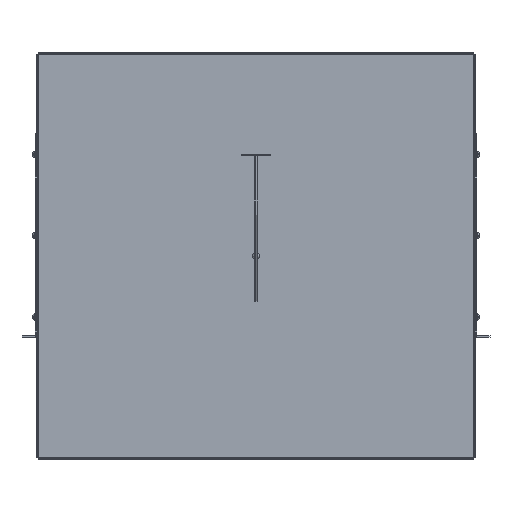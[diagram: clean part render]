
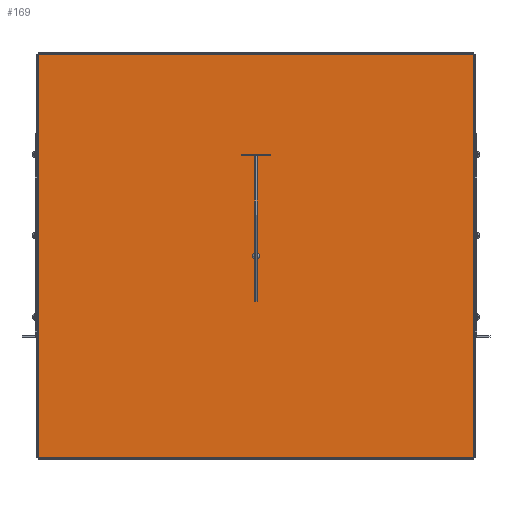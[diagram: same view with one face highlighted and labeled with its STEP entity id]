
A CAD part, top view. The second image highlights one B-rep face of the part: STEP entity #169.
In plain terms, the highlighted planar face has unit normal (0, 0, 1).
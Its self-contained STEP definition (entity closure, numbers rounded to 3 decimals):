
#169 = ADVANCED_FACE( '', ( #387 ), #388, .T. );
#387 = FACE_OUTER_BOUND( '', #746, .T. );
#388 = PLANE( '', #747 );
#746 = EDGE_LOOP( '', ( #1197, #1198, #1199, #1200 ) );
#747 = AXIS2_PLACEMENT_3D( '', #1201, #1202, #1203 );
#1197 = ORIENTED_EDGE( '', *, *, #1893, .F. );
#1198 = ORIENTED_EDGE( '', *, *, #1891, .F. );
#1199 = ORIENTED_EDGE( '', *, *, #1894, .F. );
#1200 = ORIENTED_EDGE( '', *, *, #1895, .F. );
#1201 = CARTESIAN_POINT( '', ( -273.837, -254., 1.448 ) );
#1202 = DIRECTION( '', ( 0., 0., 1. ) );
#1203 = DIRECTION( '', ( 1., 0., 0. ) );
#1891 = EDGE_CURVE( '', #2332, #2328, #2334, .T. );
#1893 = EDGE_CURVE( '', #2328, #2336, #2337, .T. );
#1894 = EDGE_CURVE( '', #2338, #2332, #2339, .T. );
#1895 = EDGE_CURVE( '', #2336, #2338, #2340, .T. );
#2328 = VERTEX_POINT( '', #3283 );
#2332 = VERTEX_POINT( '', #3288 );
#2334 = LINE( '', #3290, #3291 );
#2336 = VERTEX_POINT( '', #3293 );
#2337 = LINE( '', #3294, #3295 );
#2338 = VERTEX_POINT( '', #3296 );
#2339 = LINE( '', #3297, #3298 );
#2340 = LINE( '', #3299, #3300 );
#3283 = CARTESIAN_POINT( '', ( -271.653, -251.816, 1.448 ) );
#3288 = CARTESIAN_POINT( '', ( 271.653, -251.816, 1.448 ) );
#3290 = CARTESIAN_POINT( '', ( 273.837, -251.816, 1.448 ) );
#3291 = VECTOR( '', #3809, 1000. );
#3293 = CARTESIAN_POINT( '', ( -271.653, 251.816, 1.448 ) );
#3294 = CARTESIAN_POINT( '', ( -271.653, -251.816, 1.448 ) );
#3295 = VECTOR( '', #3810, 1000. );
#3296 = CARTESIAN_POINT( '', ( 271.653, 251.816, 1.448 ) );
#3297 = CARTESIAN_POINT( '', ( 271.653, 251.816, 1.448 ) );
#3298 = VECTOR( '', #3811, 1000. );
#3299 = CARTESIAN_POINT( '', ( -273.837, 251.816, 1.448 ) );
#3300 = VECTOR( '', #3812, 1000. );
#3809 = DIRECTION( '', ( -1., 0., 0. ) );
#3810 = DIRECTION( '', ( 0., 1., 0. ) );
#3811 = DIRECTION( '', ( 0., -1., 0. ) );
#3812 = DIRECTION( '', ( 1., 0., 0. ) );
